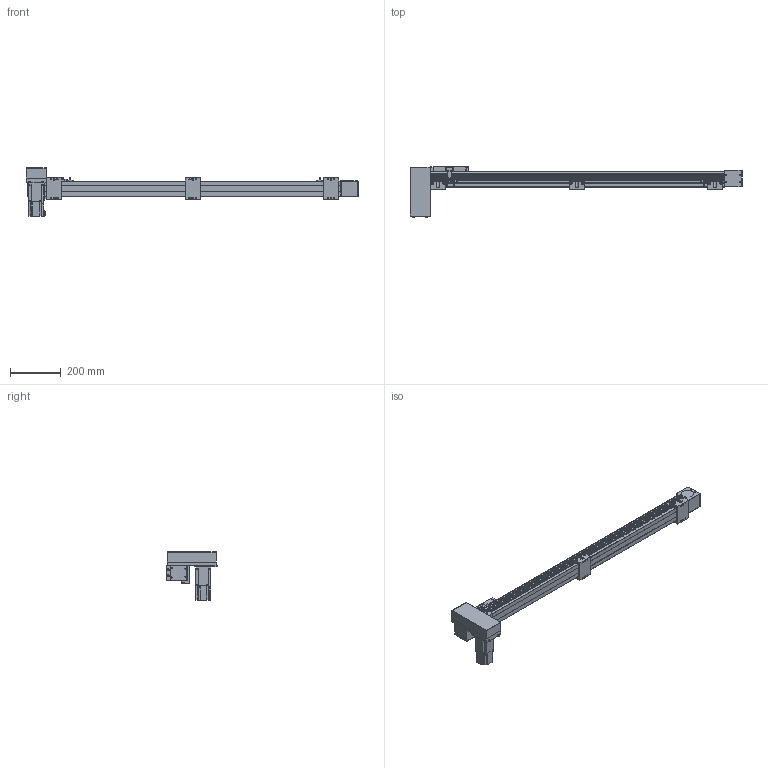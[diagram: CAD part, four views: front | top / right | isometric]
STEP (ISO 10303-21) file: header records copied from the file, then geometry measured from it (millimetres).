
FILE_DESCRIPTION(/* description */ ('STEP AP214'),/* implementation_level */ '2;1');
FILE_NAME(/* name */ 'SK60-P13-S1000-RD-T40-C1-N(0)',/* time_stamp */ '2023-04-06T04:55:40+02:00',/* author */ ('License CC BY-ND 4.0'),/* organization */ ('CADENAS'),/* preprocessor_version */ 'ST-DEVELOPER v19.3',/* originating_system */ 'PARTsolutions',/* authorisation */ ' ');
FILE_SCHEMA (('AUTOMOTIVE_DESIGN {1 0 10303 214 3 1 1}'));
Length unit declared in the file: millimetre
Products named in the file (10): SK60-P13-S1000-RD-T40-C1-N(0); PSC140-sensor; SK60-S450_seat; SK60-S450-BL-C1_slider; SK60_body3; SK60_body6; SK60-BL_body2; T40-p1; SK60-RD_fb; SK60-S1000-RD-C1_body
Assembly tree (17 placements, depth 2):
  SK60-P13-S1000-RD-T40-C1-N(0)
    PSC140-sensor  x3
    SK60-S450_seat  x3
    SK60-S450-BL-C1_slider
    SK60_body3  x3
    SK60_body6  x2
    SK60-BL_body2  x2
    T40-p1
    SK60-RD_fb
    SK60-S1000-RD-C1_body
Bounding box: 1305.5 x 199 x 189.7 mm (x, y, z)
Volume: 5668078.8 mm3; surface area: 718309.1 mm2
Topology: 17 solids, 17 shells, 854 faces, 2146 edges, 1413 vertices
Faces by surface type: plane 548, cylinder 278, cone 26, torus 2
Full cylindrical faces by diameter (mm): 2.8 x3, 3.3 x4, 4 x2, 4.5 x30, 4.6 x3, 4.917 x20, 5 x6, 5.478 x4, 5.5 x23, 6.5 x6, 7 x2, 8 x4, 8.5 x4, 9.988 x4, 10 x12, 14 x1, 47 x3, 50 x2
Entity records: 18663 total; most frequent: DIRECTION 3186, CARTESIAN_POINT 3151, ORIENTED_EDGE 2940, EDGE_CURVE 1470, AXIS2_PLACEMENT_3D 1069, LINE 1048, VECTOR 1048, VERTEX_POINT 1034
